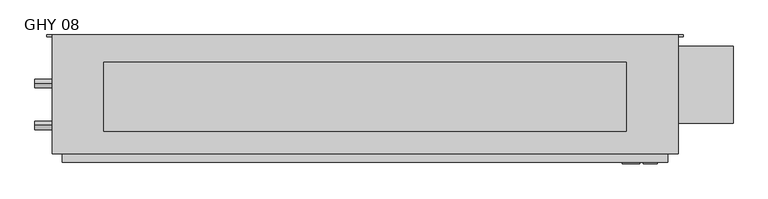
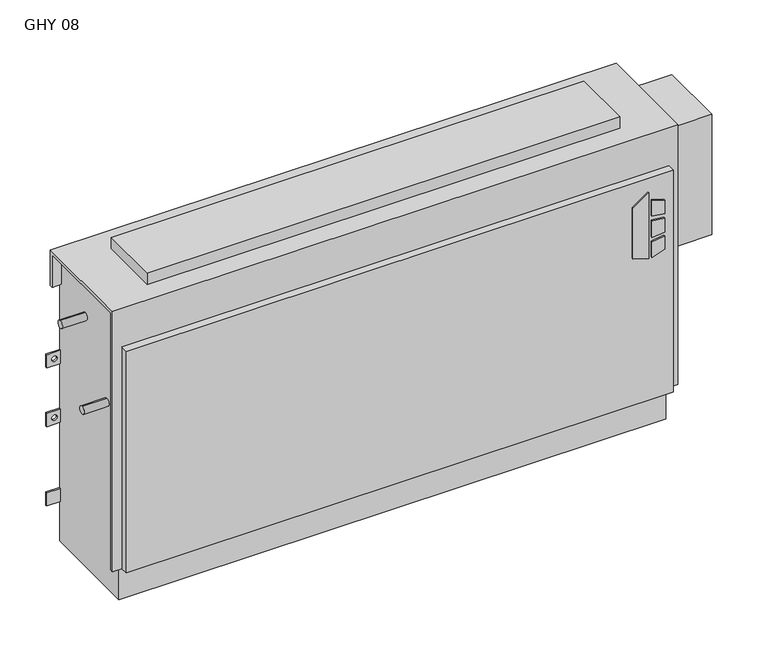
"""IFC4 building model written with IfcOpenShell, lengths in millimetres: proxy geometry, Vertical_Fan_Coil_Unit_-_GHY_-_IEC_-_2-Pipe_TS-FR_LH_2022 : GHY 08."""

from ifc_helpers import new_model, si_unit, point, frame, frame_2d, origin, place, context, project, spatial, polyline, circle_curve, trimmed, segment, composite_curve, outline, extrude, source, transform, mapped, element, save
from ifc_brep_helpers import plane_surface, revolved_surface, advanced_brep


def ghy_08_0816bc91(model_context):
    return source(origin(), model_context, "Body", "SolidModel", [
        extrude(outline(polyline([(391.6086829, 627.1368862), (381.6606126, 659.3102728), (523.831537, 659.3102728), (500.8095309, 627.1368862), (391.6086829, 627.1368862)])), frame((0.0, 6.35, 0.0), z_axis=(0.0, 1.0, 0.0), x_axis=(0.0, 0.0, 1.0)), (0.0, 0.0, 1.0), 3.175),
        extrude(outline(polyline([(470.6079683, 666.0686058), (467.4055757, 692.15), (496.6344168, 692.15), (504.6988318, 666.0686058), (470.6079683, 666.0686058)])), frame((0.0, 6.35, 0.0), z_axis=(0.0, 1.0, 0.0), x_axis=(0.0, 0.0, 1.0)), (0.0, 0.0, 1.0), 3.175),
        extrude(outline(polyline([(418.7444414, 692.15), (415.0789404, 666.0686058), (381.6606126, 666.0686058), (390.2948498, 692.15), (418.7444414, 692.15)])), frame((0.0, 6.35, 0.0), z_axis=(0.0, 1.0, 0.0), x_axis=(0.0, 0.0, 1.0)), (0.0, 0.0, 1.0), 3.175),
        extrude(outline(polyline([(458.0596028, 692.15), (460.3414292, 666.0686058), (424.4038806, 666.0686058), (427.1451456, 692.15), (458.0596028, 692.15)])), frame((0.0, 6.35, 0.0), z_axis=(0.0, 1.0, 0.0), x_axis=(0.0, 0.0, 1.0)), (0.0, 0.0, 1.0), 3.175),
        extrude(outline(polyline([(635.0, 193.675), (635.0, 66.675), (-330.2, 66.675), (-330.2, 193.675), (635.0, 193.675)])), frame((0.0, 0.0, 635.0), z_axis=(0.0, 0.0, 1.0), x_axis=(1.0, 0.0, 0.0)), (0.0, 0.0, 1.0), 25.4),
        extrude(outline(composite_curve([segment(trimmed(circle_curve(frame_2d((77.597, 401.574)), 7.9375), [point((77.597, 409.5115))], [point((77.597, 393.6365))], False, "CARTESIAN"), True, "CONTINUOUS"), segment(trimmed(circle_curve(frame_2d((77.597, 401.574)), 7.9375), [point((77.597, 393.6365))], [point((77.597, 409.5115))], False, "CARTESIAN"), True, "CONTINUOUS")], self_intersect=False)), frame((-457.2, 0.0, 0.0), z_axis=(1.0, 0.0, 0.0), x_axis=(0.0, 1.0, 0.0)), (0.0, 0.0, 1.0), 50.8),
        extrude(outline(composite_curve([segment(trimmed(circle_curve(frame_2d((154.559, 540.512)), 7.9375), [point((154.559, 548.4495))], [point((154.559, 532.5745))], False, "CARTESIAN"), True, "CONTINUOUS"), segment(trimmed(circle_curve(frame_2d((154.559, 540.512)), 7.9375), [point((154.559, 532.5745))], [point((154.559, 548.4495))], False, "CARTESIAN"), True, "CONTINUOUS")], self_intersect=False)), frame((-457.2, 0.0, 0.0), z_axis=(1.0, 0.0, 0.0), x_axis=(0.0, 1.0, 0.0)), (0.0, 0.0, 1.0), 50.8),
        extrude(outline(polyline([(831.85, 223.266), (831.85, 81.534), (711.2, 81.534), (711.2, 223.266), (831.85, 223.266)])), frame((0.0, 0.0, 327.025), z_axis=(0.0, 0.0, 1.0), x_axis=(1.0, 0.0, 0.0)), (0.0, 0.0, 1.0), 260.35),
        advanced_brep(
        [(730.25, 244.475, 635.0), (-425.45, 244.475, 635.0), (-425.45, 25.4, 635.0), (730.25, 25.4, 635.0), (-406.4, 244.475, 0.0), (711.2, 244.475, 0.0), (711.2, 34.925, 0.0), (-406.4, 34.925, 0.0), (730.25, 244.475, 558.8), (711.2, 244.475, 558.8), (711.2, 244.475, 414.3375), (739.775, 244.475, 414.3375), (739.775, 244.475, 385.7625), (711.2, 244.475, 385.7625), (711.2, 244.475, 287.3375), (739.775, 244.475, 287.3375), (739.775, 244.475, 258.7625), (711.2, 244.475, 258.7625), (711.2, 244.475, 141.2875), (739.775, 244.475, 141.2875), (739.775, 244.475, 112.7125), (711.2, 244.475, 112.7125), (-406.4, 244.475, 87.3125), (-434.975, 244.475, 87.3125), (-434.975, 244.475, 115.8875), (-406.4, 244.475, 115.8875), (-406.4, 244.475, 258.7625), (-434.975, 244.475, 258.7625), (-434.975, 244.475, 287.3375), (-406.4, 244.475, 287.3375), (-406.4, 244.475, 385.7625), (-434.975, 244.475, 385.7625), (-434.975, 244.475, 414.3375), (-406.4, 244.475, 414.3375), (-406.4, 244.475, 558.8), (-425.45, 244.475, 558.8), (729.4626, 244.475, 127.0), (718.3374, 244.475, 127.0), (729.4626, 244.475, 273.05), (718.3374, 244.475, 273.05), (-413.5374, 244.475, 273.05), (-424.6626, 244.475, 273.05), (729.4626, 244.475, 400.05), (718.3374, 244.475, 400.05), (-413.5374, 244.475, 400.05), (-424.6626, 244.475, 400.05), (-425.45, 238.125, 558.8), (-425.45, 238.125, 628.65), (-425.45, 31.75, 628.65), (-425.45, 31.75, 73.025), (-425.45, 25.4, 73.025), (711.2, 9.525, 552.45), (-406.4, 9.525, 552.45), (-406.4, 9.525, 73.025), (711.2, 9.525, 73.025), (730.25, 25.4, 73.025), (730.25, 31.75, 73.025), (730.25, 31.75, 628.65), (730.25, 238.125, 628.65), (730.25, 238.125, 558.8), (-406.4, 25.4, 73.025), (-406.4, 25.4, 552.45), (711.2, 25.4, 552.45), (711.2, 25.4, 73.025), (-406.4, 31.75, 73.025), (-406.4, 34.925, 73.025), (711.2, 34.925, 73.025), (711.2, 31.75, 73.025), (711.2, 241.3, 112.7125), (711.2, 241.3, 141.2875), (711.2, 241.3, 258.7625), (711.2, 241.3, 287.3375), (711.2, 241.3, 385.7625), (711.2, 241.3, 414.3375), (711.2, 238.125, 558.8), (711.2, 238.125, 628.65), (711.2, 31.75, 628.65), (-406.4, 31.75, 628.65), (-406.4, 238.125, 628.65), (-406.4, 238.125, 558.8), (-406.4, 241.3, 414.3375), (-406.4, 241.3, 385.7625), (-406.4, 241.3, 287.3375), (-406.4, 241.3, 258.7625), (-406.4, 241.3, 115.8875), (-406.4, 241.3, 87.3125), (739.775, 241.3, 112.7125), (739.775, 241.3, 141.2875), (718.3374, 241.3, 127.0), (729.4626, 241.3, 127.0), (739.775, 241.3, 258.7625), (739.775, 241.3, 287.3375), (718.3374, 241.3, 273.05), (729.4626, 241.3, 273.05), (739.775, 241.3, 385.7625), (739.775, 241.3, 414.3375), (718.3374, 241.3, 400.05), (729.4626, 241.3, 400.05), (-434.975, 241.3, 115.8875), (-434.975, 241.3, 87.3125), (-434.975, 241.3, 287.3375), (-434.975, 241.3, 258.7625), (-424.6626, 241.3, 273.05), (-413.5374, 241.3, 273.05), (-434.975, 241.3, 414.3375), (-434.975, 241.3, 385.7625), (-424.6626, 241.3, 400.05), (-413.5374, 241.3, 400.05)],
        [
            (0, 1),
            (1, 2),
            (2, 3),
            (3, 0),
            (4, 5),
            (5, 6),
            (6, 7),
            (7, 4),
            (0, 8),
            (8, 9),
            (9, 10),
            (10, 11),
            (11, 12),
            (12, 13),
            (13, 14),
            (14, 15),
            (15, 16),
            (16, 17),
            (17, 18),
            (18, 19),
            (19, 20),
            (20, 21),
            (21, 5),
            (4, 22),
            (22, 23),
            (23, 24),
            (24, 25),
            (25, 26),
            (26, 27),
            (27, 28),
            (28, 29),
            (29, 30),
            (30, 31),
            (31, 32),
            (32, 33),
            (33, 34),
            (34, 35),
            (35, 1),
            (36, 37, circle_curve(frame((723.9, 244.475, 127.0), z_axis=(0.0, -1.0, 0.0), x_axis=(-1.0, 0.0, 0.0)), 5.5626)),
            (37, 36, circle_curve(frame((723.9, 244.475, 127.0), z_axis=(0.0, -1.0, 0.0), x_axis=(-1.0, 0.0, 0.0)), 5.5626)),
            (38, 39, circle_curve(frame((723.9, 244.475, 273.05), z_axis=(0.0, -1.0, 0.0), x_axis=(-1.0, 0.0, 0.0)), 5.5626)),
            (39, 38, circle_curve(frame((723.9, 244.475, 273.05), z_axis=(0.0, -1.0, 0.0), x_axis=(-1.0, 0.0, 0.0)), 5.5626)),
            (40, 41, circle_curve(frame((-419.1, 244.475, 273.05), z_axis=(0.0, -1.0, 0.0), x_axis=(-1.0, 0.0, 0.0)), 5.5626)),
            (41, 40, circle_curve(frame((-419.1, 244.475, 273.05), z_axis=(0.0, -1.0, 0.0), x_axis=(-1.0, 0.0, 0.0)), 5.5626)),
            (42, 43, circle_curve(frame((723.9, 244.475, 400.05), z_axis=(0.0, -1.0, 0.0), x_axis=(-1.0, 0.0, 0.0)), 5.5626)),
            (43, 42, circle_curve(frame((723.9, 244.475, 400.05), z_axis=(0.0, -1.0, 0.0), x_axis=(-1.0, 0.0, 0.0)), 5.5626)),
            (44, 45, circle_curve(frame((-419.1, 244.475, 400.05), z_axis=(0.0, -1.0, 0.0), x_axis=(-1.0, 0.0, 0.0)), 5.5626)),
            (45, 44, circle_curve(frame((-419.1, 244.475, 400.05), z_axis=(0.0, -1.0, 0.0), x_axis=(-1.0, 0.0, 0.0)), 5.5626)),
            (35, 46),
            (46, 47),
            (47, 48),
            (48, 49),
            (49, 50),
            (50, 2),
            (51, 52),
            (52, 53),
            (53, 54),
            (54, 51),
            (3, 55),
            (55, 56),
            (56, 57),
            (57, 58),
            (58, 59),
            (59, 8),
            (50, 60),
            (60, 61),
            (61, 62),
            (62, 63),
            (63, 55),
            (51, 62),
            (61, 52),
            (53, 60),
            (49, 64),
            (64, 65),
            (65, 66),
            (66, 67),
            (67, 56),
            (63, 54),
            (6, 66),
            (65, 7),
            (21, 68),
            (68, 69),
            (69, 18),
            (17, 70),
            (70, 71),
            (71, 14),
            (13, 72),
            (72, 73),
            (73, 10),
            (9, 74),
            (74, 75),
            (75, 76),
            (76, 67),
            (64, 77),
            (77, 78),
            (78, 79),
            (79, 34),
            (33, 80),
            (80, 81),
            (81, 30),
            (29, 82),
            (82, 83),
            (83, 26),
            (25, 84),
            (84, 85),
            (85, 22),
            (74, 59),
            (58, 75),
            (76, 57),
            (48, 77),
            (79, 46),
            (78, 47),
            (68, 86),
            (86, 87),
            (87, 69),
            (88, 89, circle_curve(frame((723.9, 241.3, 127.0), z_axis=(0.0, 1.0, 0.0), x_axis=(-1.0, 0.0, 0.0)), 5.5626)),
            (89, 88, circle_curve(frame((723.9, 241.3, 127.0), z_axis=(0.0, 1.0, 0.0), x_axis=(-1.0, 0.0, 0.0)), 5.5626)),
            (90, 91),
            (91, 71),
            (70, 90),
            (92, 93, circle_curve(frame((723.9, 241.3, 273.05), z_axis=(0.0, 1.0, 0.0), x_axis=(-1.0, 0.0, 0.0)), 5.5626)),
            (93, 92, circle_curve(frame((723.9, 241.3, 273.05), z_axis=(0.0, 1.0, 0.0), x_axis=(-1.0, 0.0, 0.0)), 5.5626)),
            (94, 95),
            (95, 73),
            (72, 94),
            (96, 97, circle_curve(frame((723.9, 241.3, 400.05), z_axis=(0.0, 1.0, 0.0), x_axis=(-1.0, 0.0, 0.0)), 5.5626)),
            (97, 96, circle_curve(frame((723.9, 241.3, 400.05), z_axis=(0.0, 1.0, 0.0), x_axis=(-1.0, 0.0, 0.0)), 5.5626)),
            (98, 99),
            (99, 85),
            (84, 98),
            (82, 100),
            (100, 101),
            (101, 83),
            (102, 103, circle_curve(frame((-419.1, 241.3, 273.05), z_axis=(0.0, 1.0, 0.0), x_axis=(-1.0, 0.0, 0.0)), 5.5626)),
            (103, 102, circle_curve(frame((-419.1, 241.3, 273.05), z_axis=(0.0, 1.0, 0.0), x_axis=(-1.0, 0.0, 0.0)), 5.5626)),
            (104, 105),
            (105, 81),
            (80, 104),
            (106, 107, circle_curve(frame((-419.1, 241.3, 400.05), z_axis=(0.0, 1.0, 0.0), x_axis=(-1.0, 0.0, 0.0)), 5.5626)),
            (107, 106, circle_curve(frame((-419.1, 241.3, 400.05), z_axis=(0.0, 1.0, 0.0), x_axis=(-1.0, 0.0, 0.0)), 5.5626)),
            (87, 19),
            (86, 20),
            (16, 90),
            (91, 15),
            (12, 94),
            (95, 11),
            (24, 98),
            (99, 23),
            (101, 27),
            (100, 28),
            (32, 104),
            (105, 31),
            (88, 37),
            (36, 89),
            (92, 39),
            (38, 93),
            (102, 41),
            (40, 103),
            (96, 43),
            (42, 97),
            (106, 45),
            (44, 107),
        ],
        [
            plane_surface(frame((-425.45, 244.475, 635.0), z_axis=(0.0, 0.0, 1.0), x_axis=(-1.0, 0.0, 0.0))),
            plane_surface(frame((-425.45, 244.475, 0.0), z_axis=(0.0, 0.0, -1.0), x_axis=(1.0, 0.0, 0.0))),
            plane_surface(frame((730.25, 244.475, 635.0), z_axis=(0.0, 1.0, 0.0), x_axis=(0.0, 0.0, -1.0))),
            plane_surface(frame((-425.45, 244.475, 635.0), z_axis=(-1.0, 0.0, 0.0), x_axis=(0.0, 0.0, -1.0))),
            plane_surface(frame((-425.45, 9.525, 635.0), z_axis=(0.0, -1.0, 0.0), x_axis=(0.0, 0.0, -1.0))),
            plane_surface(frame((730.25, 9.525, 635.0), z_axis=(1.0, 0.0, 0.0), x_axis=(0.0, 0.0, -1.0))),
            plane_surface(frame((-704.85, 25.4, 635.0), z_axis=(0.0, -1.0, 0.0), x_axis=(1.0, 0.0, 0.0))),
            plane_surface(frame((-704.85, 25.4, 552.45), z_axis=(0.0, 0.0, 1.0), x_axis=(1.0, 0.0, 0.0))),
            plane_surface(frame((-425.45, 9.525, 73.025), z_axis=(0.0, 0.0, -1.0), x_axis=(1.0, 0.0, 0.0))),
            plane_surface(frame((-425.45, 34.925, 73.025), z_axis=(0.0, -1.0, 0.0), x_axis=(1.0, 0.0, 0.0))),
            plane_surface(frame((711.2, 25.4, 73.025), z_axis=(1.0, 0.0, 0.0), x_axis=(0.0, -1.0, 0.0))),
            plane_surface(frame((-406.4, 25.4, 552.45), z_axis=(-1.0, 0.0, 0.0), x_axis=(0.0, -1.0, 0.0))),
            plane_surface(frame((711.2, 244.475, 0.0), z_axis=(1.0, 0.0, 0.0), x_axis=(0.0, -1.0, 0.0))),
            plane_surface(frame((-406.4, 244.475, 73.025), z_axis=(-1.0, 0.0, 0.0), x_axis=(0.0, -1.0, 0.0))),
            plane_surface(frame((711.2, 238.125, 628.65), z_axis=(0.0, -1.0, 0.0), x_axis=(1.0, 0.0, 0.0))),
            plane_surface(frame((711.2, 238.125, 558.8), z_axis=(0.0, 0.0, -1.0), x_axis=(1.0, 0.0, 0.0))),
            plane_surface(frame((711.2, 31.75, 73.025), z_axis=(0.0, 1.0, 0.0), x_axis=(1.0, 0.0, 0.0))),
            plane_surface(frame((711.2, 31.75, 628.65), z_axis=(0.0, 0.0, -1.0), x_axis=(1.0, 0.0, 0.0))),
            plane_surface(frame((-406.4, 31.75, 628.65), z_axis=(0.0, 1.0, 0.0), x_axis=(-1.0, 0.0, 0.0))),
            plane_surface(frame((-406.4, 244.475, 558.8), z_axis=(0.0, 0.0, -1.0), x_axis=(-1.0, 0.0, 0.0))),
            plane_surface(frame((-406.4, 238.125, 558.8), z_axis=(0.0, -1.0, 0.0), x_axis=(-1.0, 0.0, 0.0))),
            plane_surface(frame((-406.4, 238.125, 628.65), z_axis=(0.0, 0.0, -1.0), x_axis=(-1.0, 0.0, 0.0))),
            plane_surface(frame((739.775, 241.3, 141.2875), z_axis=(0.0, -1.0, 0.0), x_axis=(-1.0, 0.0, 0.0))),
            plane_surface(frame((711.2, 244.475, 141.2875), z_axis=(0.0, 0.0, 1.0), x_axis=(0.0, -1.0, 0.0))),
            plane_surface(frame((739.775, 244.475, 141.2875), z_axis=(1.0, 0.0, 0.0), x_axis=(0.0, -1.0, 0.0))),
            plane_surface(frame((739.775, 244.475, 112.7125), z_axis=(0.0, 0.0, -1.0), x_axis=(0.0, -1.0, 0.0))),
            plane_surface(frame((739.775, 244.475, 258.7625), z_axis=(0.0, 0.0, -1.0), x_axis=(0.0, -1.0, 0.0))),
            plane_surface(frame((711.2, 244.475, 287.3375), z_axis=(0.0, 0.0, 1.0), x_axis=(0.0, -1.0, 0.0))),
            plane_surface(frame((739.775, 244.475, 287.3375), z_axis=(1.0, 0.0, 0.0), x_axis=(0.0, -1.0, 0.0))),
            plane_surface(frame((739.775, 244.475, 385.7625), z_axis=(0.0, 0.0, -1.0), x_axis=(0.0, -1.0, 0.0))),
            plane_surface(frame((711.2, 244.475, 414.3375), z_axis=(0.0, 0.0, 1.0), x_axis=(0.0, -1.0, 0.0))),
            plane_surface(frame((739.775, 244.475, 414.3375), z_axis=(1.0, 0.0, 0.0), x_axis=(0.0, -1.0, 0.0))),
            plane_surface(frame((-434.975, 244.475, 115.8875), z_axis=(0.0, 0.0, 1.0), x_axis=(0.0, -1.0, 0.0))),
            plane_surface(frame((-406.4, 244.475, 87.3125), z_axis=(0.0, 0.0, -1.0), x_axis=(0.0, -1.0, 0.0))),
            plane_surface(frame((-434.975, 244.475, 87.3125), z_axis=(-1.0, 0.0, 0.0), x_axis=(0.0, -1.0, 0.0))),
            plane_surface(frame((-406.4, 244.475, 258.7625), z_axis=(0.0, 0.0, -1.0), x_axis=(0.0, -1.0, 0.0))),
            plane_surface(frame((-434.975, 244.475, 258.7625), z_axis=(-1.0, 0.0, 0.0), x_axis=(0.0, -1.0, 0.0))),
            plane_surface(frame((-434.975, 244.475, 287.3375), z_axis=(0.0, 0.0, 1.0), x_axis=(0.0, -1.0, 0.0))),
            plane_surface(frame((-434.975, 244.475, 414.3375), z_axis=(0.0, 0.0, 1.0), x_axis=(0.0, -1.0, 0.0))),
            plane_surface(frame((-406.4, 244.475, 385.7625), z_axis=(0.0, 0.0, -1.0), x_axis=(0.0, -1.0, 0.0))),
            plane_surface(frame((-434.975, 244.475, 385.7625), z_axis=(-1.0, 0.0, 0.0), x_axis=(0.0, -1.0, 0.0))),
            revolved_surface(polyline([(718.3374, 241.3, 127.0), (718.3374, 244.475, 127.0)]), (723.9, 244.475, 127.0), (0.0, -1.0, 0.0)),
            revolved_surface(polyline([(718.3374, 241.3, 273.05), (718.3374, 244.475, 273.05)]), (723.9, 244.475, 273.05), (0.0, -1.0, 0.0)),
            revolved_surface(polyline([(-424.6626, 241.3, 273.05), (-424.6626, 244.475, 273.05)]), (-419.1, 244.475, 273.05), (0.0, -1.0, 0.0)),
            revolved_surface(polyline([(718.3374, 241.3, 400.05), (718.3374, 244.475, 400.05)]), (723.9, 244.475, 400.05), (0.0, -1.0, 0.0)),
            revolved_surface(polyline([(-424.6626, 241.3, 400.05), (-424.6626, 244.475, 400.05)]), (-419.1, 244.475, 400.05), (0.0, -1.0, 0.0)),
        ],
        [
            (0, [[1, 2, 3, 4]]),
            (1, [[5, 6, 7, 8]]),
            (2, [[-1, 9, 10, 11, 12, 13, 14, 15, 16, 17, 18, 19, 20, 21, 22, 23, -5, 24, 25, 26, 27, 28, 29, 30, 31, 32, 33, 34, 35, 36, 37, 38], [39, 40], [41, 42], [43, 44], [45, 46], [47, 48]]),
            (3, [[-2, -38, 49, 50, 51, 52, 53, 54]]),
            (4, [[55, 56, 57, 58]]),
            (5, [[-4, 59, 60, 61, 62, 63, 64, -9]]),
            (6, [[-3, -54, 65, 66, 67, 68, 69, -59]]),
            (7, [[-55, 70, -67, 71]]),
            (8, [[-57, 72, -65, -53, 73, 74, 75, 76, 77, -60, -69, 78]]),
            (9, [[-7, 79, -75, 80]]),
            (10, [[-68, -70, -58, -78]]),
            (11, [[-66, -72, -56, -71]]),
            (12, [[-6, -23, 81, 82, 83, -19, 84, 85, 86, -15, 87, 88, 89, -11, 90, 91, 92, 93, -76, -79]]),
            (13, [[-8, -80, -74, 94, 95, 96, 97, -36, 98, 99, 100, -32, 101, 102, 103, -28, 104, 105, 106, -24]]),
            (14, [[-91, 107, -63, 108]]),
            (15, [[-90, -10, -64, -107]]),
            (16, [[-93, 109, -61, -77]]),
            (17, [[-92, -108, -62, -109]]),
            (18, [[-94, -73, -52, 110]]),
            (19, [[-97, 111, -49, -37]]),
            (20, [[-96, 112, -50, -111]]),
            (21, [[-95, -110, -51, -112]]),
            (22, [[113, 114, 115, -82], [116, 117]]),
            (22, [[118, 119, -85, 120], [121, 122]]),
            (22, [[123, 124, -88, 125], [126, 127]]),
            (22, [[128, 129, -105, 130]]),
            (22, [[131, 132, 133, -102], [134, 135]]),
            (22, [[136, 137, -99, 138], [139, 140]]),
            (23, [[-115, 141, -20, -83]]),
            (24, [[-114, 142, -21, -141]]),
            (25, [[-113, -81, -22, -142]]),
            (26, [[-120, -84, -18, 143]]),
            (27, [[-119, 144, -16, -86]]),
            (28, [[-118, -143, -17, -144]]),
            (29, [[-125, -87, -14, 145]]),
            (30, [[-124, 146, -12, -89]]),
            (31, [[-123, -145, -13, -146]]),
            (32, [[-130, -104, -27, 147]]),
            (33, [[-129, 148, -25, -106]]),
            (34, [[-128, -147, -26, -148]]),
            (35, [[-133, 149, -29, -103]]),
            (36, [[-132, 150, -30, -149]]),
            (37, [[-131, -101, -31, -150]]),
            (38, [[-138, -98, -35, 151]]),
            (39, [[-137, 152, -33, -100]]),
            (40, [[-136, -151, -34, -152]]),
            (41, [[153, -39, 154, -116]]),
            (41, [[-153, -117, -154, -40]]),
            (42, [[155, -41, 156, -121]]),
            (42, [[-155, -122, -156, -42]]),
            (43, [[157, -43, 158, -134]]),
            (43, [[-157, -135, -158, -44]]),
            (44, [[159, -45, 160, -126]]),
            (44, [[-159, -127, -160, -46]]),
            (45, [[161, -47, 162, -139]]),
            (45, [[-161, -140, -162, -48]]),
        ],
    ),
    ])


if __name__ == "__main__":
    model = new_model("IFC4")
    model_context = context("Model", 3, world=origin())
    ifc_project = project(units=[si_unit("LENGTHUNIT", "METRE", prefix="MILLI")], contexts=[model_context])
    site = spatial("IfcSite", under=ifc_project)
    building = spatial("IfcBuilding", under=site)
    placement = place(None, origin())
    ghy_08_shape = ghy_08_0816bc91(model_context)
    element("IfcBuildingElementProxy", 1, Name="Vertical_Fan_Coil_Unit_-_GHY_-_IEC_-_2-Pipe_TS-FR_LH_2022 : GHY 08", ObjectType="Vertical_Fan_Coil_Unit_-_GHY_-_IEC_-_2-Pipe_TS-FR_LH_2022 : GHY 08", at=placement, inside=building, context=model_context, shape_type="MappedRepresentation", body=[
        mapped(ghy_08_shape, transform((0.0, 0.0, 0.0), x_axis=(1.0, 0.0, 0.0), y_axis=(0.0, 1.0, 0.0), z_axis=(0.0, 0.0, 1.0))),
    ])
    save(model, "model.ifc")
